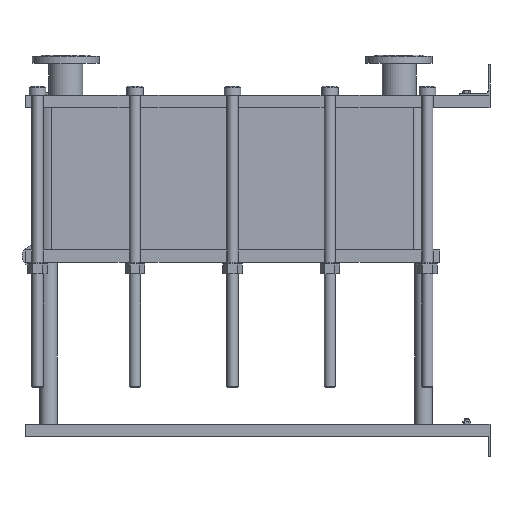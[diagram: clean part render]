
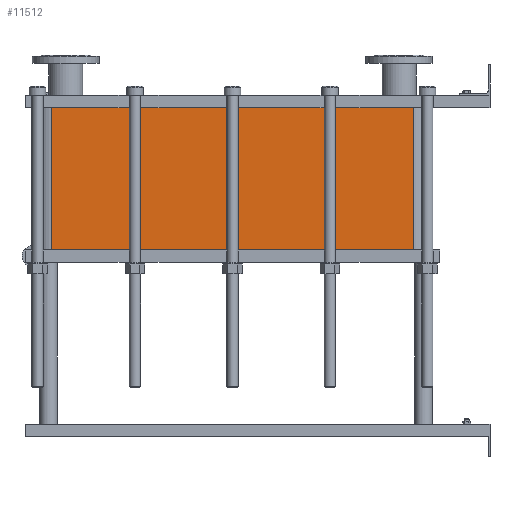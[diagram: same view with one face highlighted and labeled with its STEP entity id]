
A CAD part, left-side view. The second image highlights one B-rep face of the part: STEP entity #11512.
In plain terms, the highlighted planar face has unit normal (-1, 0, 0).
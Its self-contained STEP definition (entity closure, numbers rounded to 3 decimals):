
#1129=LINE('',#23232,#2102);
#1130=LINE('',#23236,#2103);
#1131=LINE('',#23238,#2104);
#1132=LINE('',#23239,#2105);
#2102=VECTOR('',#15887,10.);
#2103=VECTOR('',#15892,10.);
#2104=VECTOR('',#15893,10.);
#2105=VECTOR('',#15894,10.);
#3267=FACE_OUTER_BOUND('',#4093,.T.);
#4093=EDGE_LOOP('',(#10103,#10104,#10105,#10106));
#5642=VERTEX_POINT('',#23229);
#5643=VERTEX_POINT('',#23231);
#5644=VERTEX_POINT('',#23235);
#5645=VERTEX_POINT('',#23237);
#7159=EDGE_CURVE('',#5643,#5642,#1129,.T.);
#7161=EDGE_CURVE('',#5642,#5644,#1130,.T.);
#7162=EDGE_CURVE('',#5645,#5644,#1131,.T.);
#7163=EDGE_CURVE('',#5645,#5643,#1132,.T.);
#10103=ORIENTED_EDGE('',*,*,#7161,.T.);
#10104=ORIENTED_EDGE('',*,*,#7162,.F.);
#10105=ORIENTED_EDGE('',*,*,#7163,.T.);
#10106=ORIENTED_EDGE('',*,*,#7159,.T.);
#10857=PLANE('',#12751);
#11512=ADVANCED_FACE('',(#3267),#10857,.T.);
#12751=AXIS2_PLACEMENT_3D('',#23234,#15890,#15891);
#15887=DIRECTION('',(0.,0.,-1.));
#15890=DIRECTION('center_axis',(-1.,0.,0.));
#15891=DIRECTION('ref_axis',(0.,1.,0.));
#15892=DIRECTION('',(0.,-1.,0.));
#15893=DIRECTION('',(0.,0.,-1.));
#15894=DIRECTION('',(0.,1.,0.));
#23229=CARTESIAN_POINT('',(-200.,1414.,-458.85));
#23231=CARTESIAN_POINT('',(-200.,1414.,0.));
#23232=CARTESIAN_POINT('',(-200.,1414.,0.));
#23234=CARTESIAN_POINT('Origin',(-200.,248.,0.));
#23235=CARTESIAN_POINT('',(-200.,248.,-458.85));
#23236=CARTESIAN_POINT('',(-200.,539.5,-458.85));
#23237=CARTESIAN_POINT('',(-200.,248.,0.));
#23238=CARTESIAN_POINT('',(-200.,248.,0.));
#23239=CARTESIAN_POINT('',(-200.,248.,0.));
